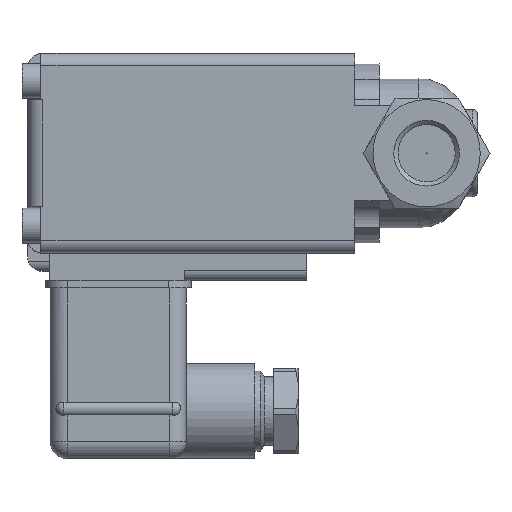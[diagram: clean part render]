
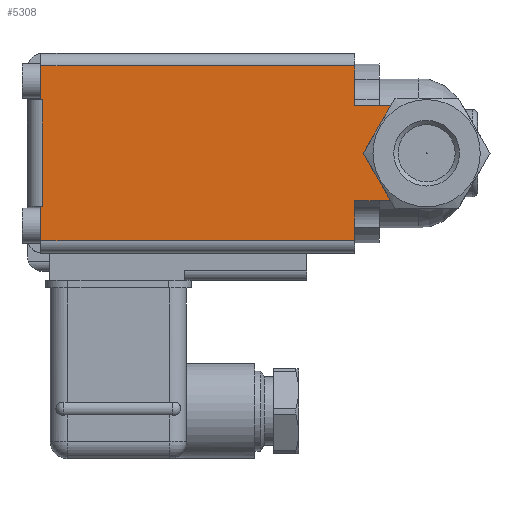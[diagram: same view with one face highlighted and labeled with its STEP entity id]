
A CAD part, left-side view. The second image highlights one B-rep face of the part: STEP entity #5308.
In plain terms, the highlighted planar face has unit normal (-1, 0, 0).
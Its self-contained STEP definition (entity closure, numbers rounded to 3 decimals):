
#83=CIRCLE('',#5572,9.55);
#506=ORIENTED_EDGE('',*,*,#1605,.F.);
#507=ORIENTED_EDGE('',*,*,#1606,.F.);
#508=ORIENTED_EDGE('',*,*,#1607,.T.);
#509=ORIENTED_EDGE('',*,*,#1608,.F.);
#510=ORIENTED_EDGE('',*,*,#1609,.T.);
#511=ORIENTED_EDGE('',*,*,#1610,.F.);
#512=ORIENTED_EDGE('',*,*,#1611,.T.);
#513=ORIENTED_EDGE('',*,*,#1612,.T.);
#514=ORIENTED_EDGE('',*,*,#1613,.F.);
#515=ORIENTED_EDGE('',*,*,#1614,.T.);
#516=ORIENTED_EDGE('',*,*,#1615,.T.);
#517=ORIENTED_EDGE('',*,*,#1616,.F.);
#1605=EDGE_CURVE('',#2141,#2142,#2479,.T.);
#1606=EDGE_CURVE('',#2143,#2141,#2480,.T.);
#1607=EDGE_CURVE('',#2143,#2144,#2481,.T.);
#1608=EDGE_CURVE('',#2145,#2144,#2482,.T.);
#1609=EDGE_CURVE('',#2145,#2146,#83,.T.);
#1610=EDGE_CURVE('',#2147,#2146,#2483,.T.);
#1611=EDGE_CURVE('',#2147,#2148,#2484,.T.);
#1612=EDGE_CURVE('',#2148,#2149,#2485,.T.);
#1613=EDGE_CURVE('',#2150,#2149,#2486,.T.);
#1614=EDGE_CURVE('',#2150,#2151,#2487,.T.);
#1615=EDGE_CURVE('',#2151,#2152,#2488,.T.);
#1616=EDGE_CURVE('',#2142,#2152,#2489,.T.);
#2141=VERTEX_POINT('',#7342);
#2142=VERTEX_POINT('',#7343);
#2143=VERTEX_POINT('',#7345);
#2144=VERTEX_POINT('',#7347);
#2145=VERTEX_POINT('',#7349);
#2146=VERTEX_POINT('',#7351);
#2147=VERTEX_POINT('',#7353);
#2148=VERTEX_POINT('',#7355);
#2149=VERTEX_POINT('',#7357);
#2150=VERTEX_POINT('',#7359);
#2151=VERTEX_POINT('',#7361);
#2152=VERTEX_POINT('',#7363);
#2479=LINE('',#7341,#2797);
#2480=LINE('',#7344,#2798);
#2481=LINE('',#7346,#2799);
#2482=LINE('',#7348,#2800);
#2483=LINE('',#7352,#2801);
#2484=LINE('',#7354,#2802);
#2485=LINE('',#7356,#2803);
#2486=LINE('',#7358,#2804);
#2487=LINE('',#7360,#2805);
#2488=LINE('',#7362,#2806);
#2489=LINE('',#7364,#2807);
#2797=VECTOR('',#6090,1000.);
#2798=VECTOR('',#6091,1000.);
#2799=VECTOR('',#6092,1000.);
#2800=VECTOR('',#6093,1000.);
#2801=VECTOR('',#6096,1000.);
#2802=VECTOR('',#6097,1000.);
#2803=VECTOR('',#6098,1000.);
#2804=VECTOR('',#6099,1000.);
#2805=VECTOR('',#6100,1000.);
#2806=VECTOR('',#6101,1000.);
#2807=VECTOR('',#6102,1000.);
#3071=EDGE_LOOP('',(#506,#507,#508,#509,#510,#511,#512,#513,#514,#515,#516,
#517));
#3333=FACE_BOUND('',#3071,.T.);
#3577=PLANE('',#5571);
#5308=ADVANCED_FACE('',(#3333),#3577,.F.);
#5571=AXIS2_PLACEMENT_3D('',#7340,#6088,#6089);
#5572=AXIS2_PLACEMENT_3D('',#7350,#6094,#6095);
#6088=DIRECTION('',(1.,0.,0.));
#6089=DIRECTION('',(0.,0.,-1.));
#6090=DIRECTION('',(0.,0.,1.));
#6091=DIRECTION('',(0.,1.,0.));
#6092=DIRECTION('',(0.,0.,1.));
#6093=DIRECTION('',(0.,1.,0.));
#6094=DIRECTION('',(1.,0.,0.));
#6095=DIRECTION('',(0.,0.,-1.));
#6096=DIRECTION('',(0.,-1.,0.));
#6097=DIRECTION('',(0.,0.,1.));
#6098=DIRECTION('',(0.,1.,0.));
#6099=DIRECTION('',(0.,0.,1.));
#6100=DIRECTION('',(0.,-1.,0.));
#6101=DIRECTION('',(0.,0.,-1.));
#6102=DIRECTION('',(0.,-1.,0.));
#7340=CARTESIAN_POINT('',(-20.,0.,0.));
#7341=CARTESIAN_POINT('',(-20.,53.3,0.));
#7342=CARTESIAN_POINT('',(-20.,53.3,-17.5));
#7343=CARTESIAN_POINT('',(-20.,53.3,-10.7));
#7344=CARTESIAN_POINT('',(-20.,-9.6,-17.5));
#7345=CARTESIAN_POINT('',(-20.,-9.6,-17.5));
#7346=CARTESIAN_POINT('',(-20.,-9.6,-17.5));
#7347=CARTESIAN_POINT('',(-20.,-9.6,-9.5));
#7348=CARTESIAN_POINT('',(-20.,-24.,-9.5));
#7349=CARTESIAN_POINT('',(-20.,-23.024,-9.5));
#7350=CARTESIAN_POINT('',(-20.,-24.,0.));
#7351=CARTESIAN_POINT('',(-20.,-23.024,9.5));
#7352=CARTESIAN_POINT('',(-20.,0.,9.5));
#7353=CARTESIAN_POINT('',(-20.,-9.6,9.5));
#7354=CARTESIAN_POINT('',(-20.,-9.6,-17.5));
#7355=CARTESIAN_POINT('',(-20.,-9.6,17.5));
#7356=CARTESIAN_POINT('',(-20.,-9.6,17.5));
#7357=CARTESIAN_POINT('',(-20.,53.3,17.5));
#7358=CARTESIAN_POINT('',(-20.,53.3,0.));
#7359=CARTESIAN_POINT('',(-20.,53.3,10.7));
#7360=CARTESIAN_POINT('',(-20.,58.,10.7));
#7361=CARTESIAN_POINT('',(-20.,53.,10.7));
#7362=CARTESIAN_POINT('',(-20.,53.,10.7));
#7363=CARTESIAN_POINT('',(-20.,53.,-10.7));
#7364=CARTESIAN_POINT('',(-20.,58.,-10.7));
